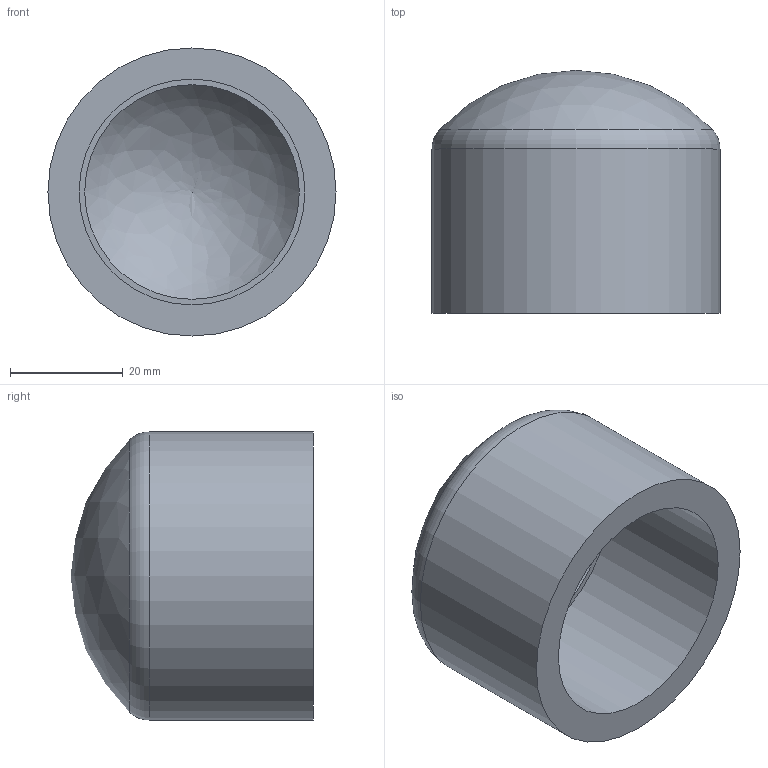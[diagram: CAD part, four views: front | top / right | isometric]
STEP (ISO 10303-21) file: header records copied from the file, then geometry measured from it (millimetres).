
FILE_DESCRIPTION(/* description */ ('PVC calotta incollaggio metrico'),/* implementation_level */ '2;1');
FILE_NAME(/* name */ 'C:\Users\POLYPIPE\Desktop\DATASET INVENTOR\LIBRERIA EFFAST\RACCORDI 3DxWEB\RDR\3D_RDRCAD\3D_RDRCAD0400.stp',/* time_stamp */ '2018-01-19T14:06:15+01:00',/* author */ ('POLYPIPE'),/* organization */ ('Polypipe Italia'),/* preprocessor_version */ 'ST-DEVELOPER v16.1',/* originating_system */ 'Autodesk Inventor 2016',/* authorisation */ '');
FILE_SCHEMA (('CONFIG_CONTROL_DESIGN'));
Length unit declared in the file: millimetre
Products named in the file (1): 3D_RDRCAD
Bounding box: 51 x 43 x 51 mm (x, y, z)
Volume: 36490.3 mm3; surface area: 13167.6 mm2
Topology: 1 solids, 1 shells, 7 faces, 12 edges, 8 vertices
Faces by surface type: cylinder 2, plane 2, torus 1, sphere 1, bspline 1
Full cylindrical faces by diameter (mm): 40 x1, 51 x1
Entity records: 198 total; most frequent: CARTESIAN_POINT 52, DIRECTION 28, ORIENTED_EDGE 16, AXIS2_PLACEMENT_3D 14, EDGE_LOOP 12, VERTEX_POINT 8, EDGE_CURVE 8, FACE_OUTER_BOUND 7
